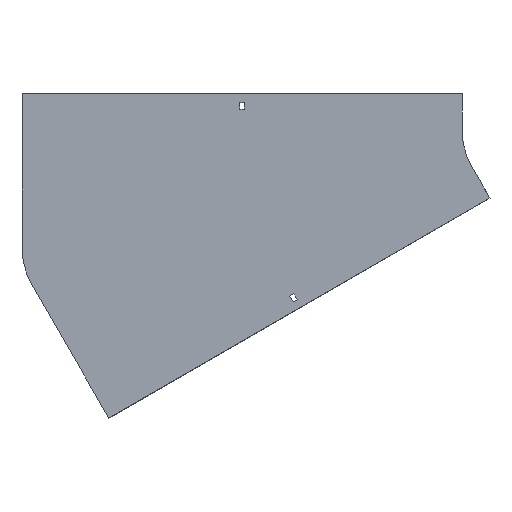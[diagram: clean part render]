
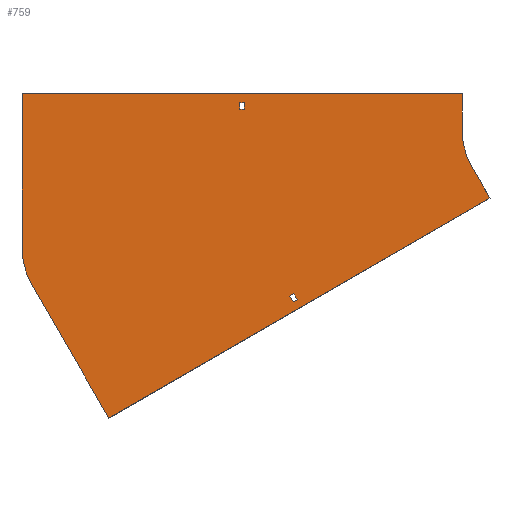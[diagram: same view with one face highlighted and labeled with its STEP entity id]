
A CAD part, front view. The second image highlights one B-rep face of the part: STEP entity #759.
In plain terms, the highlighted planar face has unit normal (0, -1, 0).
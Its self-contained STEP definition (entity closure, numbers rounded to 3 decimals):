
#2 = DIRECTION ( 'NONE',  ( 1., 0., 0. ) ) ;
#12 = VECTOR ( 'NONE', #294, 1000. ) ;
#66 = LINE ( 'NONE', #526, #1836 ) ;
#68 = ORIENTED_EDGE ( 'NONE', *, *, #1380, .F. ) ;
#100 = LINE ( 'NONE', #694, #1185 ) ;
#105 = ORIENTED_EDGE ( 'NONE', *, *, #1019, .T. ) ;
#121 = ORIENTED_EDGE ( 'NONE', *, *, #1698, .T. ) ;
#138 = ORIENTED_EDGE ( 'NONE', *, *, #1143, .F. ) ;
#148 = VECTOR ( 'NONE', #757, 1000. ) ;
#154 = VECTOR ( 'NONE', #1095, 1000. ) ;
#161 = CARTESIAN_POINT ( 'NONE',  ( -331.957, 0., -235.534 ) ) ;
#172 = DIRECTION ( 'NONE',  ( 0., 0., 1. ) ) ;
#178 = ORIENTED_EDGE ( 'NONE', *, *, #495, .F. ) ;
#184 = EDGE_CURVE ( 'NONE', #424, #1849, #915, .T. ) ;
#197 = LINE ( 'NONE', #1403, #1062 ) ;
#235 = ORIENTED_EDGE ( 'NONE', *, *, #1671, .F. ) ;
#277 = DIRECTION ( 'NONE',  ( 0.5, 0., -0.866 ) ) ;
#283 = EDGE_CURVE ( 'NONE', #737, #1312, #1876, .T. ) ;
#289 = ORIENTED_EDGE ( 'NONE', *, *, #908, .T. ) ;
#294 = DIRECTION ( 'NONE',  ( 0.866, 0., 0.5 ) ) ;
#299 = DIRECTION ( 'NONE',  ( 0., 0., -1. ) ) ;
#300 = VERTEX_POINT ( 'NONE', #1413 ) ;
#301 = VECTOR ( 'NONE', #2, 1000. ) ;
#330 = VERTEX_POINT ( 'NONE', #701 ) ;
#341 = EDGE_LOOP ( 'NONE', ( #1487, #235, #1216, #178 ) ) ;
#361 = EDGE_CURVE ( 'NONE', #1816, #1704, #692, .T. ) ;
#399 = CARTESIAN_POINT ( 'NONE',  ( -86.603, 0., -50. ) ) ;
#417 = ORIENTED_EDGE ( 'NONE', *, *, #1918, .F. ) ;
#424 = VERTEX_POINT ( 'NONE', #1335 ) ;
#426 = DIRECTION ( 'NONE',  ( 0., -1., 0. ) ) ;
#433 = LINE ( 'NONE', #1930, #1863 ) ;
#436 = EDGE_CURVE ( 'NONE', #1397, #300, #584, .T. ) ;
#440 = VERTEX_POINT ( 'NONE', #1354 ) ;
#442 = CARTESIAN_POINT ( 'NONE',  ( -100., 0., 50. ) ) ;
#445 = EDGE_CURVE ( 'NONE', #330, #440, #1344, .T. ) ;
#449 = CARTESIAN_POINT ( 'NONE',  ( -405.25, 0., 38. ) ) ;
#475 = VERTEX_POINT ( 'NONE', #1228 ) ;
#495 = EDGE_CURVE ( 'NONE', #440, #737, #1701, .T. ) ;
#500 = AXIS2_PLACEMENT_3D ( 'NONE', #1809, #1620, #1337 ) ;
#503 = ORIENTED_EDGE ( 'NONE', *, *, #184, .F. ) ;
#521 = CARTESIAN_POINT ( 'NONE',  ( -405.25, 0., 29. ) ) ;
#526 = CARTESIAN_POINT ( 'NONE',  ( -405.25, 0., 29. ) ) ;
#545 = DIRECTION ( 'NONE',  ( 0.5, 0., -0.866 ) ) ;
#548 = VERTEX_POINT ( 'NONE', #765 ) ;
#572 = VECTOR ( 'NONE', #172, 1000. ) ;
#584 = LINE ( 'NONE', #1192, #790 ) ;
#587 = CARTESIAN_POINT ( 'NONE',  ( -86.603, 0., -50. ) ) ;
#607 = LINE ( 'NONE', #442, #148 ) ;
#617 = DIRECTION ( 'NONE',  ( -0.5, 0., 0.866 ) ) ;
#657 = VERTEX_POINT ( 'NONE', #449 ) ;
#663 = CARTESIAN_POINT ( 'NONE',  ( -100., 0., 0. ) ) ;
#692 = CIRCLE ( 'NONE', #1360, 100. ) ;
#694 = CARTESIAN_POINT ( 'NONE',  ( -405.25, 0., 38. ) ) ;
#701 = CARTESIAN_POINT ( 'NONE',  ( -331.957, 0., -235.534 ) ) ;
#721 = CARTESIAN_POINT ( 'NONE',  ( -405.25, 0., 29. ) ) ;
#732 = VERTEX_POINT ( 'NONE', #1457 ) ;
#737 = VERTEX_POINT ( 'NONE', #1592 ) ;
#739 = LINE ( 'NONE', #1046, #301 ) ;
#745 = DIRECTION ( 'NONE',  ( -0.866, 0., -0.5 ) ) ;
#757 = DIRECTION ( 'NONE',  ( 0., 0., -1. ) ) ;
#759 = ADVANCED_FACE ( 'NONE', ( #1313, #1914, #872 ), #1773, .T. ) ;
#765 = CARTESIAN_POINT ( 'NONE',  ( -398.75, 0., 29. ) ) ;
#790 = VECTOR ( 'NONE', #745, 1000. ) ;
#795 = CARTESIAN_POINT ( 'NONE',  ( -61.603, 0., -93.301 ) ) ;
#801 = CARTESIAN_POINT ( 'NONE',  ( -330.828, 0., -224.49 ) ) ;
#825 = VECTOR ( 'NONE', #906, 1000. ) ;
#833 = DIRECTION ( 'NONE',  ( 0., -1., 0. ) ) ;
#841 = VECTOR ( 'NONE', #545, 1000. ) ;
#872 = FACE_BOUND ( 'NONE', #341, .T. ) ;
#906 = DIRECTION ( 'NONE',  ( 0., 0., -1. ) ) ;
#908 = EDGE_CURVE ( 'NONE', #1604, #657, #1871, .T. ) ;
#915 = LINE ( 'NONE', #1082, #572 ) ;
#946 = ORIENTED_EDGE ( 'NONE', *, *, #361, .F. ) ;
#959 = ORIENTED_EDGE ( 'NONE', *, *, #1575, .F. ) ;
#965 = AXIS2_PLACEMENT_3D ( 'NONE', #1762, #426, #299 ) ;
#984 = DIRECTION ( 'NONE',  ( 0., 0., -1. ) ) ;
#1008 = CARTESIAN_POINT ( 'NONE',  ( -690.603, 0., -211.841 ) ) ;
#1019 = EDGE_CURVE ( 'NONE', #657, #732, #100, .T. ) ;
#1046 = CARTESIAN_POINT ( 'NONE',  ( -704., 0., 50. ) ) ;
#1048 = VECTOR ( 'NONE', #1389, 1000. ) ;
#1062 = VECTOR ( 'NONE', #617, 1000. ) ;
#1082 = CARTESIAN_POINT ( 'NONE',  ( -704., 0., -161.841 ) ) ;
#1089 = ORIENTED_EDGE ( 'NONE', *, *, #436, .F. ) ;
#1095 = DIRECTION ( 'NONE',  ( 0., 0., 1. ) ) ;
#1099 = CIRCLE ( 'NONE', #500, 100. ) ;
#1125 = ORIENTED_EDGE ( 'NONE', *, *, #1142, .F. ) ;
#1136 = DIRECTION ( 'NONE',  ( -0.866, 0., -0.5 ) ) ;
#1142 = EDGE_CURVE ( 'NONE', #475, #1816, #607, .T. ) ;
#1143 = EDGE_CURVE ( 'NONE', #1849, #475, #739, .T. ) ;
#1184 = LINE ( 'NONE', #1778, #825 ) ;
#1185 = VECTOR ( 'NONE', #1912, 1000. ) ;
#1192 = CARTESIAN_POINT ( 'NONE',  ( -61.603, 0., -93.301 ) ) ;
#1197 = ORIENTED_EDGE ( 'NONE', *, *, #1753, .T. ) ;
#1205 = CARTESIAN_POINT ( 'NONE',  ( -704., 0., 50. ) ) ;
#1216 = ORIENTED_EDGE ( 'NONE', *, *, #283, .F. ) ;
#1228 = CARTESIAN_POINT ( 'NONE',  ( -100., 0., 50. ) ) ;
#1312 = VERTEX_POINT ( 'NONE', #1744 ) ;
#1313 = FACE_BOUND ( 'NONE', #1667, .T. ) ;
#1335 = CARTESIAN_POINT ( 'NONE',  ( -704., 0., -161.841 ) ) ;
#1337 = DIRECTION ( 'NONE',  ( 0., 0., 1. ) ) ;
#1344 = LINE ( 'NONE', #161, #12 ) ;
#1354 = CARTESIAN_POINT ( 'NONE',  ( -326.328, 0., -232.284 ) ) ;
#1360 = AXIS2_PLACEMENT_3D ( 'NONE', #1729, #833, #984 ) ;
#1380 = EDGE_CURVE ( 'NONE', #300, #1584, #197, .T. ) ;
#1389 = DIRECTION ( 'NONE',  ( -0.5, 0., 0.866 ) ) ;
#1397 = VERTEX_POINT ( 'NONE', #795 ) ;
#1403 = CARTESIAN_POINT ( 'NONE',  ( -584.682, 0., -395.301 ) ) ;
#1413 = CARTESIAN_POINT ( 'NONE',  ( -584.682, 0., -395.301 ) ) ;
#1457 = CARTESIAN_POINT ( 'NONE',  ( -398.75, 0., 38. ) ) ;
#1487 = ORIENTED_EDGE ( 'NONE', *, *, #445, .F. ) ;
#1561 = CARTESIAN_POINT ( 'NONE',  ( -336.457, 0., -227.74 ) ) ;
#1575 = EDGE_CURVE ( 'NONE', #1704, #1397, #1898, .T. ) ;
#1584 = VERTEX_POINT ( 'NONE', #1008 ) ;
#1592 = CARTESIAN_POINT ( 'NONE',  ( -330.828, 0., -224.49 ) ) ;
#1604 = VERTEX_POINT ( 'NONE', #721 ) ;
#1620 = DIRECTION ( 'NONE',  ( 0., 1., 0. ) ) ;
#1667 = EDGE_LOOP ( 'NONE', ( #289, #105, #121, #1197 ) ) ;
#1671 = EDGE_CURVE ( 'NONE', #1312, #330, #433, .T. ) ;
#1698 = EDGE_CURVE ( 'NONE', #732, #548, #1184, .T. ) ;
#1701 = LINE ( 'NONE', #801, #1048 ) ;
#1704 = VERTEX_POINT ( 'NONE', #587 ) ;
#1716 = EDGE_LOOP ( 'NONE', ( #138, #503, #417, #68, #1089, #959, #946, #1125 ) ) ;
#1729 = CARTESIAN_POINT ( 'NONE',  ( 0., 0., 0. ) ) ;
#1730 = DIRECTION ( 'NONE',  ( -1., 0., 0. ) ) ;
#1744 = CARTESIAN_POINT ( 'NONE',  ( -336.457, 0., -227.74 ) ) ;
#1753 = EDGE_CURVE ( 'NONE', #548, #1604, #66, .T. ) ;
#1762 = CARTESIAN_POINT ( 'NONE',  ( 0., 0., 0. ) ) ;
#1773 = PLANE ( 'NONE',  #965 ) ;
#1778 = CARTESIAN_POINT ( 'NONE',  ( -398.75, 0., 29. ) ) ;
#1809 = CARTESIAN_POINT ( 'NONE',  ( -604., 0., -161.841 ) ) ;
#1816 = VERTEX_POINT ( 'NONE', #663 ) ;
#1832 = VECTOR ( 'NONE', #1136, 1000. ) ;
#1836 = VECTOR ( 'NONE', #1730, 1000. ) ;
#1849 = VERTEX_POINT ( 'NONE', #1205 ) ;
#1863 = VECTOR ( 'NONE', #277, 1000. ) ;
#1871 = LINE ( 'NONE', #521, #154 ) ;
#1876 = LINE ( 'NONE', #1561, #1832 ) ;
#1898 = LINE ( 'NONE', #399, #841 ) ;
#1912 = DIRECTION ( 'NONE',  ( 1., 0., 0. ) ) ;
#1914 = FACE_OUTER_BOUND ( 'NONE', #1716, .T. ) ;
#1918 = EDGE_CURVE ( 'NONE', #1584, #424, #1099, .T. ) ;
#1930 = CARTESIAN_POINT ( 'NONE',  ( -336.457, 0., -227.74 ) ) ;
